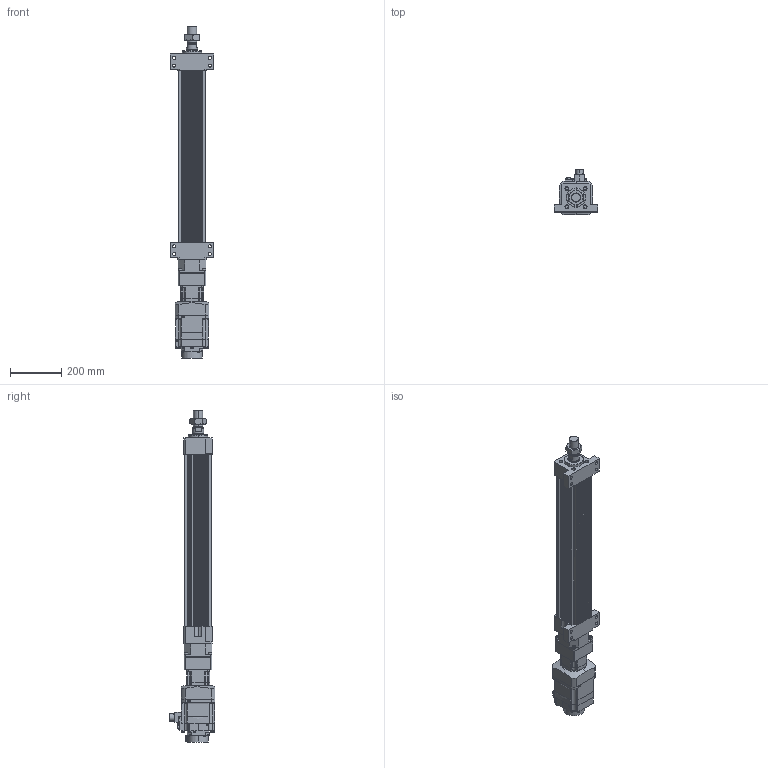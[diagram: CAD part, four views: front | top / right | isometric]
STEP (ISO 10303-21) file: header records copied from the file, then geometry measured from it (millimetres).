
FILE_DESCRIPTION (( 'STEP AP203' ), '1' );
FILE_NAME ('HES110NS(HS)-S500-W010G00-M-FFB.STEP', '2026-06-10T06:00:28', ( 'tms' ), ( '' ), 'SwSTEP 2.0', 'SolidWorks 2013', '' );
FILE_SCHEMA (( 'CONFIG_CONTROL_DESIGN' ));
Length unit declared in the file: millimetre
Products named in the file (8): AB0902; AB0901; HG-SR102B; HES110-M-ROD-500; HES110-FFB-500; M36X1.5P; HES110-S-G90; HES110NS(HS)-S500-W010G00-M-FFB
Assembly tree (7 placements, depth 2):
  HES110NS(HS)-S500-W010G00-M-FFB
    HES110-FFB-500
    HES110-M-ROD-500
    M36X1.5P
    HES110-S-G90
    AB0901
    AB0902
    HG-SR102B
Bounding box: 170 x 177.49 x 1293 mm (x, y, z)
Volume: 8695584 mm3; surface area: 1154940.1 mm2
Topology: 5 solids, 12 shells, 1194 faces, 3036 edges, 1981 vertices
Faces by surface type: plane 560, cylinder 552, cone 68, bspline 10, torus 4
Entity records: 38266 total; most frequent: CARTESIAN_POINT 7539, DIRECTION 6557, ORIENTED_EDGE 6044, EDGE_CURVE 3032, AXIS2_PLACEMENT_3D 2423, VERTEX_POINT 1981, LINE 1711, VECTOR 1711
